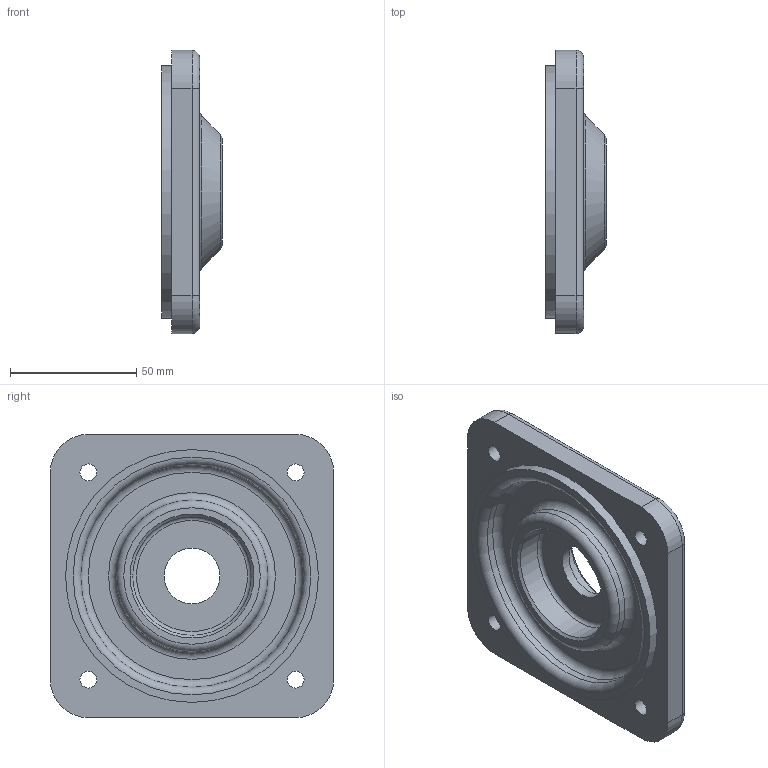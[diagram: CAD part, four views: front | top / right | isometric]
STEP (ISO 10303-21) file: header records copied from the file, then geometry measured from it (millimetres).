
FILE_DESCRIPTION(/* description */ (''),/* implementation_level */ '2;1');
FILE_NAME(/* name */ '',/* time_stamp */ '2026-01-09T11:13:19+09:00',/* author */ ('jhkim'),/* organization */ (''),/* preprocessor_version */ 'ST-DEVELOPER v20.1',/* originating_system */ 'Autodesk Inventor 2026',/* authorisation */ '');
FILE_SCHEMA (('AUTOMOTIVE_DESIGN { 1 0 10303 214 3 1 1 }'));
Length unit declared in the file: millimetre
Products named in the file (1): 측면 커버
Bounding box: 24 x 112 x 112 mm (x, y, z)
Volume: 123888 mm3; surface area: 36571.9 mm2
Topology: 1 solids, 1 shells, 53 faces, 114 edges, 73 vertices
Faces by surface type: cylinder 22, plane 16, torus 12, cone 3
Full cylindrical faces by diameter (mm): 6.6 x4, 11 x4, 22 x1, 35 x1, 47 x1, 60 x1, 88 x1, 100 x1
Entity records: 1536 total; most frequent: DIRECTION 299, CARTESIAN_POINT 241, ORIENTED_EDGE 228, AXIS2_PLACEMENT_3D 131, EDGE_CURVE 114, CIRCLE 77, EDGE_LOOP 73, VERTEX_POINT 73
